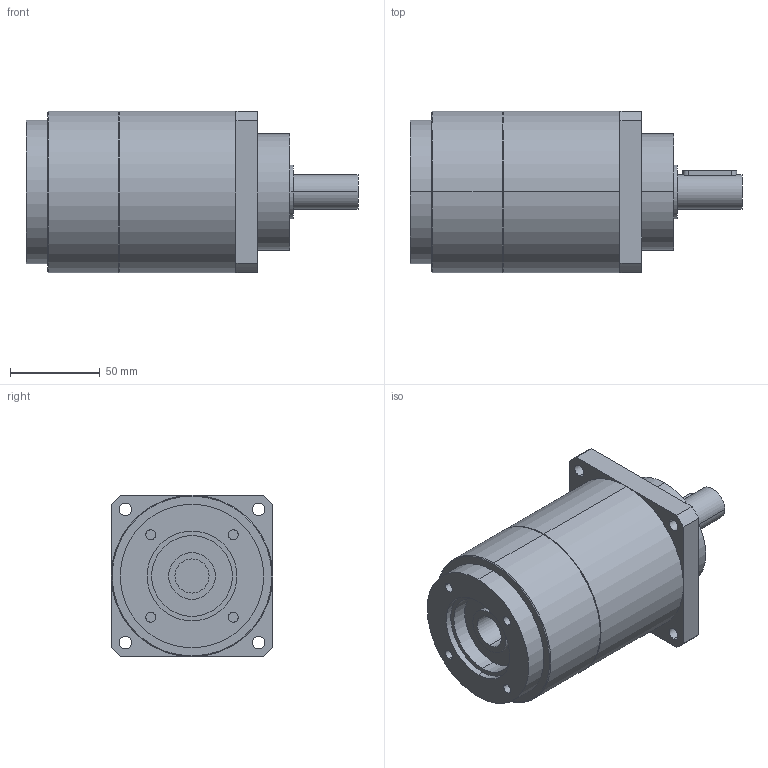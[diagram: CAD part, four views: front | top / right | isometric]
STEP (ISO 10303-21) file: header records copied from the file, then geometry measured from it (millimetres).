
FILE_DESCRIPTION(('CoCreate Modeling STEP Export'),'2;1');
FILE_NAME('GPT90_ig-9-12-16-20-25-28-35-40-50-70-100_19_B5T_19_P10.stp','2015-02-04T11:32:53',(''),(''),'CoCreate Modeling STEP processor for AP214 (Solid Model)','CoCreate Modeling 16.00C 25-Feb-2009 (C) Parametric Technology GmbH','');
FILE_SCHEMA(('AUTOMOTIVE_DESIGN { 1 0 10303 214 1 1 1 1 }'));
Length unit declared in the file: millimetre
Products named in the file (2): GPT90_ig-9-12-16-20-25-28-35-40-50-70-100_19_B5T_19_P10
Assembly tree (1 placements, depth 2):
  GPT90_ig-9-12-16-20-25-28-35-40-50-70-100_19_B5T_19_P10
    GPT90_ig-9-12-16-20-25-28-35-40-50-70-100_19_B5T_19_P10
Bounding box: 185 x 90 x 90 mm (x, y, z)
Volume: 864425.7 mm3; surface area: 65250.9 mm2
Topology: 1 solids, 1 shells, 75 faces, 190 edges, 131 vertices
Faces by surface type: cylinder 44, plane 27, cone 4
Entity records: 2388 total; most frequent: CARTESIAN_POINT 704, ORIENTED_EDGE 380, DIRECTION 282, EDGE_CURVE 190, VERTEX_POINT 131, AXIS2_PLACEMENT_3D 106, EDGE_LOOP 97, FACE_OUTER_BOUND 75
